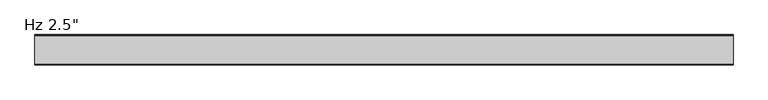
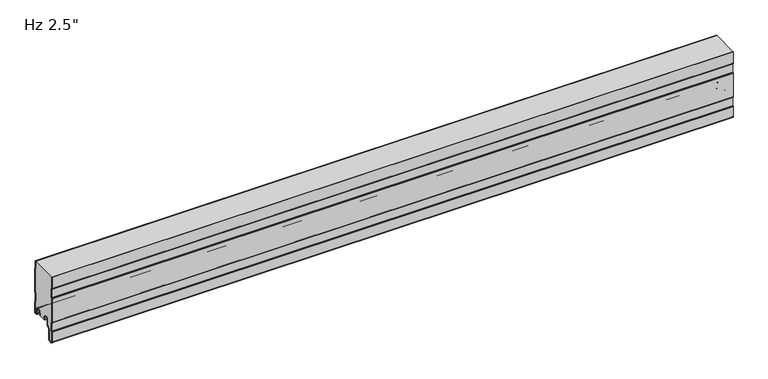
"""IFC4 building model written with IfcOpenShell, lengths in millimetres: plate geometry."""

import ifcopenshell
import ifcopenshell.guid

model = None  # the IFC model being written
_history = None  # IfcOwnerHistory: only IFC2X3 demands one
_inside = {}  # id of a spatial element -> (the spatial element, [elements in it])
_under = {}  # id of a project, library or spatial element -> (it, [spatial elements below it])
_declared = {}  # id of a project -> (the project, [libraries it declares])
_typed = {}  # id of a type object -> (the type object, [elements of that type])
_made_of = {}  # id of a material, layer set ... -> (it, [elements and type objects made of it])


def new_model(schema):
    """Start an empty IFC model of exactly this schema.

    Asked for "IFC4X3", IfcOpenShell would pick the latest addendum, in which some entities
    have other attributes; the version numbers below select the first issue.
    IFC2X3 requires an IfcOwnerHistory on every rooted entity: one is made here for all.
    """
    global model, _history
    if schema == "IFC4X3":
        model = ifcopenshell.file(schema_version=(4, 3, 0, 0))
    else:
        model = ifcopenshell.file(schema=schema)
    _inside.clear()
    _under.clear()
    _declared.clear()
    _typed.clear()
    _made_of.clear()
    _history = None
    if model.schema == "IFC2X3":
        org = make("IfcOrganization", Name="unknown")
        user = make(
            "IfcPersonAndOrganization",
            ThePerson=make("IfcPerson", FamilyName="unknown"),
            TheOrganization=org,
        )
        app = make(
            "IfcApplication",
            ApplicationDeveloper=org,
            Version="unknown",
            ApplicationFullName="unknown",
            ApplicationIdentifier="unknown",
        )
        _history = make(
            "IfcOwnerHistory",
            OwningUser=user,
            OwningApplication=app,
            ChangeAction="ADDED",
            CreationDate=0,
        )
    return model


def make(cls, **values):
    """One entity of the class cls with the attributes given. An attribute that is None is left unset."""
    return model.create_entity(
        cls, **{name: value for name, value in values.items() if value is not None}
    )


def rooted(cls, **values):
    """An entity with a GlobalId (a new one), such as an element, a storey or a relation."""
    return make(cls, GlobalId=ifcopenshell.guid.new(), OwnerHistory=_history, **values)


def si_unit(unit_type, name, prefix=None):
    """IfcSIUnit, for example si_unit("LENGTHUNIT", "METRE", prefix="MILLI")."""
    return make("IfcSIUnit", UnitType=unit_type, Prefix=prefix, Name=name)


def assignment(units):
    """IfcUnitAssignment: the units of a project."""
    return None if units is None else make("IfcUnitAssignment", Units=units)


def point(xyz):
    """IfcCartesianPoint."""
    return None if xyz is None else make("IfcCartesianPoint", Coordinates=xyz)


def direction(xyz):
    """IfcDirection."""
    return None if xyz is None else make("IfcDirection", DirectionRatios=xyz)


def frame(location, z_axis=None, x_axis=None):
    """IfcAxis2Placement3D, a coordinate frame: its origin and axes. An axis left out is left unset."""
    return make(
        "IfcAxis2Placement3D",
        Location=point(location),
        Axis=direction(z_axis),
        RefDirection=direction(x_axis),
    )


def frame_2d(location, x_axis=None):
    """IfcAxis2Placement2D, a coordinate frame in the plane: its origin and x axis."""
    return make(
        "IfcAxis2Placement2D", Location=point(location), RefDirection=direction(x_axis)
    )


def origin():
    """The frame at (0, 0, 0) with its axes left unset."""
    return frame((0.0, 0.0, 0.0))


def place(relative_to, where):
    """IfcLocalPlacement: puts the frame where relative to a parent placement (None: the world)."""
    return make(
        "IfcLocalPlacement", PlacementRelTo=relative_to, RelativePlacement=where
    )


def context(
    kind, dimensions, precision=None, world=None, true_north=None, identifier=None
):
    """IfcGeometricRepresentationContext, for example the 3D "Model" context."""
    return make(
        "IfcGeometricRepresentationContext",
        ContextIdentifier=identifier,
        ContextType=kind,
        CoordinateSpaceDimension=dimensions,
        Precision=precision,
        WorldCoordinateSystem=world,
        TrueNorth=true_north,
    )


def project(units=None, contexts=None):
    """IfcProject with its units and contexts."""
    return rooted(
        "IfcProject",
        Name="project",
        RepresentationContexts=contexts,
        UnitsInContext=assignment(units),
    )


def spatial(cls, under=None, at=None, **own):
    """A site, building, storey or space (cls), placed at a placement, below another one or the project."""
    s = rooted(cls, ObjectPlacement=at, **own)
    if under is not None:
        _under.setdefault(under.id(), (under, []))[1].append(s)
    return s


def polyline(points):
    """IfcPolyline through the points."""
    return make("IfcPolyline", Points=[point(p) for p in points])


def circle_curve(where, radius):
    """IfcCircle in the frame where."""
    return make("IfcCircle", Position=where, Radius=radius)


def trimmed(basis, trim1, trim2, sense, master):
    """IfcTrimmedCurve: the piece of a basis curve between two trims."""
    return make(
        "IfcTrimmedCurve",
        BasisCurve=basis,
        Trim1=trim1,
        Trim2=trim2,
        SenseAgreement=sense,
        MasterRepresentation=master,
    )


def segment(curve, same_sense, transition):
    """IfcCompositeCurveSegment."""
    return make(
        "IfcCompositeCurveSegment",
        Transition=transition,
        SameSense=same_sense,
        ParentCurve=curve,
    )


def composite_curve(segments, self_intersect=None):
    """IfcCompositeCurve: segments joined end to end."""
    return make("IfcCompositeCurve", Segments=segments, SelfIntersect=self_intersect)


def outline(outer, holes=None, kind="AREA"):
    """IfcArbitraryClosedProfileDef: a profile drawn as a closed curve; with holes, ...WithVoids."""
    if holes is None:
        return make("IfcArbitraryClosedProfileDef", ProfileType=kind, OuterCurve=outer)
    return make(
        "IfcArbitraryProfileDefWithVoids",
        ProfileType=kind,
        OuterCurve=outer,
        InnerCurves=holes,
    )


def extrude(swept, where, along, depth):
    """IfcExtrudedAreaSolid: the profile swept, set in the frame where, extruded along a direction by depth."""
    return make(
        "IfcExtrudedAreaSolid",
        SweptArea=swept,
        Position=where,
        ExtrudedDirection=direction(along),
        Depth=depth,
    )


def shape(context_of_items, identifier, shape_type, items):
    """IfcShapeRepresentation: the items that make up one representation, for example the "Body"."""
    return make(
        "IfcShapeRepresentation",
        ContextOfItems=context_of_items,
        RepresentationIdentifier=identifier,
        RepresentationType=shape_type,
        Items=items,
    )


def source(mapping_origin, context_of_items, identifier, shape_type, items):
    """IfcRepresentationMap: a shape defined once, which mapped items show again and again."""
    return make(
        "IfcRepresentationMap",
        MappingOrigin=mapping_origin,
        MappedRepresentation=shape(context_of_items, identifier, shape_type, items),
    )


def transform(
    local_origin,
    x_axis=None,
    y_axis=None,
    z_axis=None,
    scale=None,
    scale2=None,
    scale3=None,
    uniform=True,
):
    """IfcCartesianTransformationOperator3D, or its non-uniform kind. x_axis, y_axis, z_axis: its Axis1, 2, 3."""
    if uniform:
        return make(
            "IfcCartesianTransformationOperator3D",
            Axis1=direction(x_axis),
            Axis2=direction(y_axis),
            LocalOrigin=point(local_origin),
            Scale=scale,
            Axis3=direction(z_axis),
        )
    return make(
        "IfcCartesianTransformationOperator3DnonUniform",
        Axis1=direction(x_axis),
        Axis2=direction(y_axis),
        LocalOrigin=point(local_origin),
        Scale=scale,
        Axis3=direction(z_axis),
        Scale2=scale2,
        Scale3=scale3,
    )


def mapped(mapping_source, mapping_target):
    """IfcMappedItem: shows the shape of a source again, moved by a transform."""
    return make(
        "IfcMappedItem", MappingSource=mapping_source, MappingTarget=mapping_target
    )


def made_of(thing, what):
    """Note that an element or type object is made of a material, layer set ...; save() writes the relation."""
    if what is not None:
        _made_of.setdefault(what.id(), (what, []))[1].append(thing)
    return thing


def element(
    cls,
    number,
    at=None,
    inside=None,
    cuts=None,
    type_object=None,
    material=None,
    context=None,
    identifier="Body",
    shape_type=None,
    held_by="IfcProductDefinitionShape",
    body=None,
    shapes=None,
    **own,
):
    """One element of the class cls, such as IfcWall. Its Tag is "e" and its number.

    at: its placement. inside: the storey or other place that contains it. cuts: it is an
    opening in that element (IfcRelVoidsElement). A single representation is given by context,
    identifier, shape_type and body (its items); several are given by shapes. held_by: the class
    of the entity that holds the representations. save() writes the other relations.
    """
    e = rooted(cls, Tag="e%d" % number, ObjectPlacement=at, **own)
    if body is not None:
        shapes = [shape(context, identifier, shape_type, body)]
    if shapes is not None:
        e.Representation = make(held_by, Representations=shapes)
    if inside is not None:
        _inside.setdefault(inside.id(), (inside, []))[1].append(e)
    if cuts is not None:
        rooted(
            "IfcRelVoidsElement", RelatingBuildingElement=cuts, RelatedOpeningElement=e
        )
    if type_object is not None:
        _typed.setdefault(type_object.id(), (type_object, []))[1].append(e)
    return made_of(e, material)


def aggregate(whole, parts):
    """IfcRelAggregates: a whole, such as a stair, and the parts it consists of."""
    return rooted("IfcRelAggregates", RelatingObject=whole, RelatedObjects=parts)


def save(model, path):
    """Write the relations noted so far, then the file.

    IfcRelAggregates (storeys below a building ...), IfcRelContainedInSpatialStructure (elements
    in a storey), IfcRelDefinesByType, IfcRelAssociatesMaterial and IfcRelDeclares: one each for
    every whole, place, type object, material and project.
    """
    for whole, parts in _under.values():
        aggregate(whole, parts)
    for where, things in _inside.values():
        rooted(
            "IfcRelContainedInSpatialStructure",
            RelatedElements=things,
            RelatingStructure=where,
        )
    for kind, things in _typed.values():
        rooted("IfcRelDefinesByType", RelatedObjects=things, RelatingType=kind)
    for what, things in _made_of.values():
        rooted("IfcRelAssociatesMaterial", RelatedObjects=things, RelatingMaterial=what)
    for by, libraries in _declared.values():
        rooted("IfcRelDeclares", RelatingContext=by, RelatedDefinitions=libraries)
    model.write(path)


def plane_surface(at):
    """IfcPlane: the flat surface through the origin of the frame at, square to its z axis."""
    return make("IfcPlane", Position=at)


def cylinder_surface(at, radius):
    """IfcCylindricalSurface: all points at the distance radius from the z axis of the frame at."""
    return make("IfcCylindricalSurface", Position=at, Radius=radius)


def revolved_surface(curve, axis_point, axis_direction):
    """IfcSurfaceOfRevolution: the curve turned about the line through axis_point along axis_direction."""
    return make(
        "IfcSurfaceOfRevolution",
        SweptCurve=make("IfcArbitraryOpenProfileDef", ProfileType="CURVE", Curve=curve),
        AxisPosition=make("IfcAxis1Placement", Location=point(axis_point), Axis=direction(axis_direction)),
    )


def advanced_brep(points, edges, surfaces, faces):
    """IfcAdvancedBrep: a solid bounded by faces that lie on surfaces and meet in shared edges.

    An edge is (start, end): straight between two places in points (the first is 0);
    or (start, end, curve); or (start, end, curve, False) where it runs against its curve.
    A face is (place in surfaces, loops), or (place, loops, False) where it looks against
    its surface's normal. A loop lists edges by number (the first is 1), with a minus sign
    where the edge is run from its end to its start. The first loop is the outer one.
    """
    corners = [point(p) for p in points]
    vertices = [make("IfcVertexPoint", VertexGeometry=c) for c in corners]
    made = []
    for start, end, *more in edges:
        made.append(
            make(
                "IfcEdgeCurve",
                EdgeStart=vertices[start],
                EdgeEnd=vertices[end],
                EdgeGeometry=more[0] if more else make("IfcPolyline", Points=[corners[start], corners[end]]),
                SameSense=more[1] if len(more) > 1 else True,
            )
        )
    hull = []
    for where, loops, *sense in faces:
        bounds = []
        for j, loop in enumerate(loops):
            ring = [make("IfcOrientedEdge", EdgeElement=made[abs(k) - 1], Orientation=k > 0) for k in loop]
            bounds.append(
                make(
                    "IfcFaceOuterBound" if j == 0 else "IfcFaceBound",
                    Bound=make("IfcEdgeLoop", EdgeList=ring),
                    Orientation=True,
                )
            )
        hull.append(make("IfcAdvancedFace", Bounds=bounds, FaceSurface=surfaces[where], SameSense=sense[0] if sense else True))
    return make("IfcAdvancedBrep", Outer=make("IfcClosedShell", CfsFaces=hull))


def plate_77654dfe(model_context):
    return source(origin(), model_context, "Body", "SolidModel", [
        advanced_brep(
        [(-730.0, -17.0015159, 2.0313088), (-730.0, -18.0015191, 1.0313116), (-730.0, -19.0015105, 2.0313088), (-730.0, -19.0015105, 6.0315125), (-730.0, -18.0015159, 6.0315125), (-730.0, -18.0015159, 8.7237223), (-730.0, -14.7015202, 12.023718), (-730.0, -10.301529, 12.023718), (-730.0, -7.0015335, 8.7237225), (-730.0, -7.0015335, -1.6962564), (-730.0, -5.2315393, -3.4662506), (-730.0, -0.9999916, -3.4662506), (-730.0, -0.9999916, 21.034026), (-730.0, -2.2002307, 22.4196686), (-730.0, -2.2002307, 41.7948349), (-730.0, -1.0, 43.1804679), (-730.0, -1.0, 97.2338833), (-730.0, -2.2002307, 98.6195162), (-730.0, -2.2002307, 114.0), (-730.0, -1.2002307, 114.0), (-730.0, -1.2002307, 98.9923967), (-730.0, -0.3417885, 98.001349), (-730.0, 0.0, 97.0847321), (-730.0, 0.0, 43.329619), (-730.0, -0.3417885, 42.4130021), (-730.0, -1.2002307, 41.4219545), (-730.0, -1.2002307, 22.7925491), (-730.0, -0.3417885, 21.8015014), (-730.0, 0.0, 20.8847931), (-730.0, 8.4e-06, -3.0662545), (-730.0, -1.3999878, -4.4662506), (-730.0, -5.2315393, -4.4662506), (-730.0, -8.0015335, -1.6962564), (-730.0, -8.0015335, 8.7237225), (-730.0, -10.301529, 11.023718), (-730.0, -14.7015202, 11.023718), (-730.0, -17.0015159, 8.7237223), (730.0, -17.0015159, 2.0313088), (730.0, -17.0015159, 8.7237223), (730.0, -14.7015202, 11.023718), (730.0, -10.301529, 11.023718), (730.0, -8.0015335, 8.7237225), (730.0, -8.0015335, -1.6962564), (730.0, -5.2315393, -4.4662506), (730.0, -1.3999878, -4.4662506), (730.0, 8.4e-06, -3.0662545), (730.0, 8.4e-06, 20.8848845), (730.0, -0.3417885, 21.8015014), (730.0, -1.2002307, 22.7925491), (730.0, -1.2002307, 41.4219545), (730.0, -0.3417885, 42.4130021), (730.0, 0.0, 43.329619), (730.0, 0.0, 97.0847321), (730.0, -0.3417885, 98.001349), (730.0, -1.2002307, 98.9923967), (730.0, -1.2002307, 114.0), (730.0, -2.2002307, 114.0), (730.0, -2.2002307, 98.6195162), (730.0, -1.0, 97.2338833), (730.0, -1.0, 43.1804679), (730.0, -2.2002307, 41.7948349), (730.0, -2.2002307, 22.4196686), (730.0, -0.9999916, 21.034026), (730.0, -0.9999916, -3.4662506), (730.0, -5.2315393, -3.4662506), (730.0, -7.0015335, -1.6962564), (730.0, -7.0015335, 8.7237225), (730.0, -10.301529, 12.023718), (730.0, -14.7015202, 12.023718), (730.0, -18.0015159, 8.7237223), (730.0, -18.0015159, 6.0315125), (730.0, -19.0015105, 6.0315125), (730.0, -19.0015105, 2.0313088), (730.0, -18.0015192, 1.0313116)],
        [
            (0, 1, circle_curve(frame((-730.0, -18.0015132, 2.0313088), z_axis=(-1.0, 0.0, 0.0), x_axis=(0.0, 0.0, 1.0)), 0.9999973)),
            (1, 2, circle_curve(frame((-730.0, -18.0015133, 2.0313088), z_axis=(-1.0, 0.0, 0.0), x_axis=(0.0, 0.0, 1.0)), 0.9999972)),
            (2, 3),
            (3, 4),
            (4, 5),
            (5, 6, circle_curve(frame((-730.0, -14.7015202, 8.7237223), z_axis=(-1.0, 0.0, 0.0), x_axis=(0.0, 0.0, 1.0)), 3.2999957)),
            (6, 7),
            (7, 8, circle_curve(frame((-730.0, -10.301529, 8.7237225), z_axis=(-1.0, 0.0, 0.0), x_axis=(0.0, 0.0, 1.0)), 3.2999955)),
            (8, 9),
            (9, 10, circle_curve(frame((-730.0, -5.2315393, -1.6962564), z_axis=(1.0, 0.0, 0.0), x_axis=(0.0, 0.0, 1.0)), 1.7699942)),
            (10, 11),
            (11, 12),
            (12, 13),
            (13, 14),
            (14, 15),
            (15, 16),
            (16, 17),
            (17, 18),
            (18, 19),
            (19, 20),
            (20, 21),
            (21, 22, circle_curve(frame((-730.0, -1.3999972, 97.0847321), z_axis=(-1.0, 0.0, 0.0), x_axis=(0.0, 0.0, 1.0)), 1.3999972)),
            (22, 23),
            (23, 24, circle_curve(frame((-730.0, -1.3999972, 43.329619), z_axis=(-1.0, 0.0, 0.0), x_axis=(0.0, 0.0, 1.0)), 1.3999972)),
            (24, 25),
            (25, 26),
            (26, 27),
            (27, 28, circle_curve(frame((-730.0, -1.3999972, 20.8848845), z_axis=(-1.0, 0.0, 0.0), x_axis=(0.0, 0.0, 1.0)), 1.3999972)),
            (28, 29),
            (29, 30, circle_curve(frame((-730.0, -1.3999878, -3.0662545), z_axis=(-1.0, 0.0, 0.0), x_axis=(0.0, 0.0, 1.0)), 1.3999962)),
            (30, 31),
            (31, 32, circle_curve(frame((-730.0, -5.2315393, -1.6962564), z_axis=(-1.0, 0.0, 0.0), x_axis=(0.0, 0.0, 1.0)), 2.7699942)),
            (32, 33),
            (33, 34, circle_curve(frame((-730.0, -10.301529, 8.7237225), z_axis=(1.0, 0.0, 0.0), x_axis=(0.0, 0.0, 1.0)), 2.2999955)),
            (34, 35),
            (35, 36, circle_curve(frame((-730.0, -14.7015202, 8.7237223), z_axis=(1.0, 0.0, 0.0), x_axis=(0.0, 0.0, 1.0)), 2.2999957)),
            (36, 0),
            (37, 38),
            (38, 39, circle_curve(frame((730.0, -14.7015202, 8.7237223), z_axis=(-1.0, 0.0, 0.0), x_axis=(0.0, 0.0, 1.0)), 2.2999957)),
            (39, 40),
            (40, 41, circle_curve(frame((730.0, -10.301529, 8.7237225), z_axis=(-1.0, 0.0, 0.0), x_axis=(0.0, 0.0, 1.0)), 2.2999955)),
            (41, 42),
            (42, 43, circle_curve(frame((730.0, -5.2315393, -1.6962564), z_axis=(1.0, 0.0, 0.0), x_axis=(0.0, 0.0, 1.0)), 2.7699942)),
            (43, 44),
            (44, 45, circle_curve(frame((730.0, -1.3999878, -3.0662545), z_axis=(1.0, 0.0, 0.0), x_axis=(0.0, 0.0, 1.0)), 1.3999962)),
            (45, 46),
            (46, 47, circle_curve(frame((730.0, -1.3999972, 20.8848845), z_axis=(1.0, 0.0, 0.0), x_axis=(0.0, 0.0, 1.0)), 1.3999972)),
            (47, 48),
            (48, 49),
            (49, 50),
            (50, 51, circle_curve(frame((730.0, -1.3999972, 43.329619), z_axis=(1.0, 0.0, 0.0), x_axis=(0.0, 0.0, 1.0)), 1.3999972)),
            (51, 52),
            (52, 53, circle_curve(frame((730.0, -1.3999972, 97.0847321), z_axis=(1.0, 0.0, 0.0), x_axis=(0.0, 0.0, 1.0)), 1.3999972)),
            (53, 54),
            (54, 55),
            (55, 56),
            (56, 57),
            (57, 58),
            (58, 59),
            (59, 60),
            (60, 61),
            (61, 62),
            (62, 63),
            (63, 64),
            (64, 65, circle_curve(frame((730.0, -5.2315393, -1.6962564), z_axis=(-1.0, 0.0, 0.0), x_axis=(0.0, 0.0, 1.0)), 1.7699942)),
            (65, 66),
            (66, 67, circle_curve(frame((730.0, -10.301529, 8.7237225), z_axis=(1.0, 0.0, 0.0), x_axis=(0.0, 0.0, 1.0)), 3.2999955)),
            (67, 68),
            (68, 69, circle_curve(frame((730.0, -14.7015202, 8.7237223), z_axis=(1.0, 0.0, 0.0), x_axis=(0.0, 0.0, 1.0)), 3.2999957)),
            (69, 70),
            (70, 71),
            (71, 72),
            (72, 73, circle_curve(frame((730.0, -18.0015133, 2.0313088), z_axis=(1.0, 0.0, 0.0), x_axis=(0.0, 0.0, 1.0)), 0.9999972)),
            (73, 37, circle_curve(frame((730.0, -18.0015132, 2.0313088), z_axis=(1.0, 0.0, 0.0), x_axis=(0.0, 0.0, 1.0)), 0.9999973)),
            (18, 56),
            (55, 19),
            (36, 38),
            (37, 0),
            (35, 39),
            (34, 40),
            (33, 41),
            (32, 42),
            (31, 43),
            (30, 44),
            (29, 45),
            (28, 46),
            (27, 47),
            (26, 48),
            (25, 49),
            (24, 50),
            (23, 51),
            (22, 52),
            (21, 53),
            (20, 54),
            (17, 57),
            (16, 58),
            (15, 59),
            (14, 60),
            (13, 61),
            (12, 62),
            (11, 63),
            (10, 64),
            (9, 65),
            (8, 66),
            (7, 67),
            (6, 68),
            (5, 69),
            (4, 70),
            (3, 71),
            (2, 72),
            (1, 73),
        ],
        [
            plane_surface(frame((-730.0, 0.0, 381.0), z_axis=(-1.0, 0.0, 0.0), x_axis=(0.0, 1.0, 0.0))),
            plane_surface(frame((730.0, 0.0, 381.0), z_axis=(1.0, 0.0, 0.0), x_axis=(0.0, 1.0, 0.0))),
            plane_surface(frame((730.0, 10.0, 114.0), z_axis=(0.0, 0.0, 1.0), x_axis=(-1.0, 0.0, 0.0))),
            plane_surface(frame((-730.0, -17.0015159, 2.0313088), z_axis=(0.0, 1.0, 0.0), x_axis=(1.0, 0.0, 0.0))),
            revolved_surface(polyline([(730.0, -14.7015202, 11.023718), (-730.0, -14.7015202, 11.023718)]), (-730.0, -14.7015202, 8.7237223), (1.0, 0.0, 0.0)),
            plane_surface(frame((-730.0, -14.7015202, 11.023718), z_axis=(0.0, 0.0, -1.0), x_axis=(1.0, 0.0, 0.0))),
            revolved_surface(polyline([(730.0, -10.301529, 11.023717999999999), (-730.0, -10.301529, 11.023717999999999)]), (-730.0, -10.301529, 8.7237225), (1.0, 0.0, 0.0)),
            plane_surface(frame((-730.0, -8.0015335, 8.7237225), z_axis=(0.0, -1.0, 0.0), x_axis=(1.0, 0.0, 0.0))),
            cylinder_surface(frame((-730.0, -5.2315393, -1.6962564), z_axis=(-1.0, 0.0, 0.0), x_axis=(0.0, 0.0, 1.0)), 2.7699942),
            plane_surface(frame((-730.0, -5.2315393, -4.4662506), z_axis=(0.0, 0.0, -1.0), x_axis=(1.0, 0.0, 0.0))),
            cylinder_surface(frame((-730.0, -1.3999878, -3.0662545), z_axis=(-1.0, 0.0, 0.0), x_axis=(0.0, 0.0, 1.0)), 1.3999962),
            plane_surface(frame((-730.0, 8.4e-06, -3.0662545), z_axis=(0.0, 1.0, 0.0), x_axis=(1.0, 0.0, 0.0))),
            cylinder_surface(frame((-730.0, -1.3999972, 20.8848845), z_axis=(-1.0, 0.0, 0.0), x_axis=(0.0, 0.0, 1.0)), 1.3999972),
            plane_surface(frame((-730.0, -0.3417885, 21.8015014), z_axis=(0.0, 0.755864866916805, 0.6547276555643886), x_axis=(1.0, 0.0, 0.0))),
            plane_surface(frame((-730.0, -1.2002307, 32.1072518), z_axis=(0.0, 1.0, 0.0), x_axis=(1.0, 0.0, 0.0))),
            plane_surface(frame((-730.0, -1.2002307, 41.4219545), z_axis=(0.0, 0.755864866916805, -0.6547276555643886), x_axis=(1.0, 0.0, 0.0))),
            cylinder_surface(frame((-730.0, -1.3999972, 43.329619), z_axis=(-1.0, 0.0, 0.0), x_axis=(0.0, 0.0, 1.0)), 1.3999972),
            plane_surface(frame((-730.0, 0.0, 43.329619), z_axis=(0.0, 1.0, 0.0), x_axis=(1.0, 0.0, 0.0))),
            cylinder_surface(frame((-730.0, -1.3999972, 97.0847321), z_axis=(-1.0, 0.0, 0.0), x_axis=(0.0, 0.0, 1.0)), 1.3999972),
            plane_surface(frame((-730.0, -0.3417885, 98.001349), z_axis=(0.0, 0.755864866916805, 0.6547276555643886), x_axis=(1.0, 0.0, 0.0))),
            plane_surface(frame((-730.0, -1.2002307, 108.3070994), z_axis=(0.0, 1.0, 0.0), x_axis=(1.0, 0.0, 0.0))),
            plane_surface(frame((-730.0, -2.2002307, 117.9946825), z_axis=(0.0, -1.0, 0.0), x_axis=(1.0, 0.0, 0.0))),
            plane_surface(frame((-730.0, -2.2002307, 98.6195162), z_axis=(0.0, -0.755864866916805, -0.6547276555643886), x_axis=(1.0, 0.0, 0.0))),
            plane_surface(frame((-730.0, -1.0, 97.2338833), z_axis=(0.0, -1.0, 0.0), x_axis=(1.0, 0.0, 0.0))),
            plane_surface(frame((-730.0, -1.0, 43.1804679), z_axis=(0.0, -0.755864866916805, 0.6547276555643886), x_axis=(1.0, 0.0, 0.0))),
            plane_surface(frame((-730.0, -2.2002307, 41.7948349), z_axis=(0.0, -1.0, 0.0), x_axis=(1.0, 0.0, 0.0))),
            plane_surface(frame((-730.0, -2.2002307, 22.4196686), z_axis=(0.0, -0.755864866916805, -0.6547276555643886), x_axis=(1.0, 0.0, 0.0))),
            plane_surface(frame((-730.0, -0.9999916, 21.034026), z_axis=(0.0, -1.0, 0.0), x_axis=(1.0, 0.0, 0.0))),
            plane_surface(frame((-730.0, -0.9999916, -3.4662506), z_axis=(0.0, 0.0, 1.0), x_axis=(1.0, 0.0, 0.0))),
            revolved_surface(polyline([(730.0, -5.2315393, 0.07373779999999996), (-730.0, -5.2315393, 0.07373779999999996)]), (-730.0, -5.2315393, -1.6962564), (1.0, 0.0, 0.0)),
            plane_surface(frame((-730.0, -7.0015335, -1.6962564), z_axis=(0.0, 1.0, 0.0), x_axis=(1.0, 0.0, 0.0))),
            cylinder_surface(frame((-730.0, -10.301529, 8.7237225), z_axis=(-1.0, 0.0, 0.0), x_axis=(0.0, 0.0, 1.0)), 3.2999955),
            plane_surface(frame((-730.0, -10.301529, 12.023718), z_axis=(0.0, 0.0, 1.0), x_axis=(1.0, 0.0, 0.0))),
            cylinder_surface(frame((-730.0, -14.7015202, 8.7237223), z_axis=(-1.0, 0.0, 0.0), x_axis=(0.0, 0.0, 1.0)), 3.2999957),
            plane_surface(frame((-730.0, -18.0015159, 8.7237223), z_axis=(0.0, -1.0, 0.0), x_axis=(1.0, 0.0, 0.0))),
            plane_surface(frame((-730.0, -18.0015159, 6.0315125), z_axis=(0.0, 0.0, 1.0), x_axis=(1.0, 0.0, 0.0))),
            plane_surface(frame((-730.0, -19.0015105, 6.0315125), z_axis=(0.0, -1.0, 0.0), x_axis=(1.0, 0.0, 0.0))),
            cylinder_surface(frame((-730.0, -18.0015133, 2.0313088), z_axis=(-1.0, 0.0, 0.0), x_axis=(0.0, 0.0, 1.0)), 0.9999972),
            cylinder_surface(frame((-730.0, -18.0015132, 2.0313088), z_axis=(-1.0, 0.0, 0.0), x_axis=(0.0, 0.0, 1.0)), 0.9999973),
        ],
        [
            (0, [[1, 2, 3, 4, 5, 6, 7, 8, 9, 10, 11, 12, 13, 14, 15, 16, 17, 18, 19, 20, 21, 22, 23, 24, 25, 26, 27, 28, 29, 30, 31, 32, 33, 34, 35, 36, 37]]),
            (1, [[38, 39, 40, 41, 42, 43, 44, 45, 46, 47, 48, 49, 50, 51, 52, 53, 54, 55, 56, 57, 58, 59, 60, 61, 62, 63, 64, 65, 66, 67, 68, 69, 70, 71, 72, 73, 74]]),
            (2, [[75, -56, 76, -19]]),
            (3, [[77, -38, 78, -37]]),
            (4, [[79, -39, -77, -36]]),
            (5, [[80, -40, -79, -35]]),
            (6, [[81, -41, -80, -34]]),
            (7, [[82, -42, -81, -33]]),
            (8, [[83, -43, -82, -32]]),
            (9, [[84, -44, -83, -31]]),
            (10, [[85, -45, -84, -30]]),
            (11, [[86, -46, -85, -29]]),
            (12, [[87, -47, -86, -28]]),
            (13, [[88, -48, -87, -27]]),
            (14, [[89, -49, -88, -26]]),
            (15, [[90, -50, -89, -25]]),
            (16, [[91, -51, -90, -24]]),
            (17, [[92, -52, -91, -23]]),
            (18, [[93, -53, -92, -22]]),
            (19, [[94, -54, -93, -21]]),
            (20, [[-20, -76, -55, -94]]),
            (21, [[-57, -75, -18, 95]]),
            (22, [[96, -58, -95, -17]]),
            (23, [[97, -59, -96, -16]]),
            (24, [[98, -60, -97, -15]]),
            (25, [[99, -61, -98, -14]]),
            (26, [[100, -62, -99, -13]]),
            (27, [[101, -63, -100, -12]]),
            (28, [[102, -64, -101, -11]]),
            (29, [[103, -65, -102, -10]]),
            (30, [[104, -66, -103, -9]]),
            (31, [[105, -67, -104, -8]]),
            (32, [[106, -68, -105, -7]]),
            (33, [[107, -69, -106, -6]]),
            (34, [[108, -70, -107, -5]]),
            (35, [[109, -71, -108, -4]]),
            (36, [[110, -72, -109, -3]]),
            (37, [[111, -73, -110, -2]]),
            (38, [[-78, -74, -111, -1]]),
        ],
    ),
        extrude(outline(composite_curve([segment(trimmed(circle_curve(frame_2d((-62.0998717, -10.6415934)), 1.3998661), [point((-63.4997378, -10.6415934))], [point((-63.0324955, -9.5976403))], False, "CARTESIAN"), True, "CONTINUOUS"), segment(polyline([(-63.0324955, -9.5976403), (-62.2997693, -8.8649141), (-62.2997693, 10.0260713), (-63.0327349, 10.7590369)]), True, "CONTINUOUS"), segment(trimmed(circle_curve(frame_2d((-62.1000237, 11.8030877)), 1.3999972), [point((-63.0327349, 10.7590369))], [point((-63.5, 11.810741))], False, "CARTESIAN"), True, "CONTINUOUS"), segment(polyline([(-63.5, 11.810741), (-63.5, 65.5582542)]), True, "CONTINUOUS"), segment(trimmed(circle_curve(frame_2d((-62.1000028, 65.5582542)), 1.3999972), [point((-63.5, 65.5582542))], [point((-63.032714, 66.602305))], False, "CARTESIAN"), True, "CONTINUOUS"), segment(polyline([(-63.032714, 66.602305), (-62.2997693, 67.3352497), (-62.2997693, 86.2259189), (-63.0327349, 86.9588845)]), True, "CONTINUOUS"), segment(trimmed(circle_curve(frame_2d((-62.1000237, 88.0029353)), 1.3999972), [point((-63.0327349, 86.9588845))], [point((-63.5, 88.0105886))], False, "CARTESIAN"), True, "CONTINUOUS"), segment(polyline([(-63.5, 88.0105886), (-63.5, 114.0), (-62.5, 114.0), (-62.5, 87.8405213), (-61.2997693, 86.6402905), (-61.2997693, 66.920878), (-62.5, 65.7206473), (-62.5, 11.6405156), (-61.2997693, 10.4402849), (-61.2997693, -9.2791277), (-62.4997378, -10.4790962), (-62.4997378, -32.4521176)]), True, "CONTINUOUS"), segment(trimmed(circle_curve(frame_2d((-59.9294985, -32.4521176)), 2.5702393), [point((-62.4997378, -32.4521176))], [point((-59.7054129, -35.0125699))], True, "CARTESIAN"), True, "CONTINUOUS"), segment(polyline([(-59.7054129, -35.0125699), (-54.723592, -34.5765709)]), True, "CONTINUOUS"), segment(trimmed(circle_curve(frame_2d((-55.2049826, -31.9198392)), 2.6999926), [point((-54.723592, -34.5765709))], [point((-52.50499, -31.9198392))], True, "CARTESIAN"), True, "CONTINUOUS"), segment(polyline([(-52.50499, -31.9198392), (-52.50499, -9.8247096), (-47.0029189, -4.3226385)]), True, "CONTINUOUS"), segment(trimmed(circle_curve(frame_2d((-48.2049966, -3.1205608)), 1.6999946), [point((-47.0029189, -4.3226385))], [point((-46.505002, -3.1205608))], True, "CARTESIAN"), True, "CONTINUOUS"), segment(polyline([(-46.505002, -3.1205608), (-46.505002, 8.6903283)]), True, "CONTINUOUS"), segment(trimmed(circle_curve(frame_2d((-43.1550067, 8.6903283)), 3.3499953), [point((-46.505002, 8.6903283))], [point((-43.1550067, 12.0403236))], False, "CARTESIAN"), True, "CONTINUOUS"), segment(polyline([(-43.1550067, 12.0403236), (-38.7550155, 12.0403236)]), True, "CONTINUOUS"), segment(trimmed(circle_curve(frame_2d((-38.7550155, 8.6903283)), 3.3499953), [point((-38.7550155, 12.0403236))], [point((-35.4050202, 8.6903283))], False, "CARTESIAN"), True, "CONTINUOUS"), segment(polyline([(-35.4050202, 8.6903283), (-35.4050202, 5.9912173), (-34.0065413, 5.9912173), (-34.0065413, 2.2328239)]), True, "CONTINUOUS"), segment(trimmed(circle_curve(frame_2d((-35.206538, 2.2313092)), 1.1999976), [point((-34.0065413, 2.2328239))], [point((-35.1760161, 1.0316999))], False, "CARTESIAN"), True, "CONTINUOUS"), segment(trimmed(circle_curve(frame_2d((-35.206538, 2.2313092)), 1.1999976), [point((-35.1760161, 1.0316999))], [point((-36.4050202, 2.1710221))], False, "CARTESIAN"), True, "CONTINUOUS"), segment(polyline([(-36.4050202, 2.1710221), (-36.4050202, 8.6903283)]), True, "CONTINUOUS"), segment(trimmed(circle_curve(frame_2d((-38.7550155, 8.6903283)), 2.3499953), [point((-36.4050202, 8.6903283))], [point((-38.7550155, 11.0403236))], True, "CARTESIAN"), True, "CONTINUOUS"), segment(polyline([(-38.7550155, 11.0403236), (-43.1550067, 11.0403236)]), True, "CONTINUOUS"), segment(trimmed(circle_curve(frame_2d((-43.1550067, 8.6903283)), 2.3499953), [point((-43.1550067, 11.0403236))], [point((-45.505002, 8.6903283))], True, "CARTESIAN"), True, "CONTINUOUS"), segment(polyline([(-45.505002, 8.6903283), (-45.505002, -3.1205608)]), True, "CONTINUOUS"), segment(trimmed(circle_curve(frame_2d((-48.2049966, -3.1205608)), 2.6999946), [point((-45.505002, -3.1205608))], [point((-46.2958121, -5.0297453))], False, "CARTESIAN"), True, "CONTINUOUS"), segment(polyline([(-46.2958121, -5.0297453), (-51.1242296, -9.8581627)]), True, "CONTINUOUS"), segment(trimmed(circle_curve(frame_2d((-50.2049926, -10.7773997)), 1.2999974), [point((-51.1242296, -9.8581627))], [point((-51.50499, -10.7773997))], True, "CARTESIAN"), True, "CONTINUOUS"), segment(polyline([(-51.50499, -10.7773997), (-51.50499, -31.9198392)]), True, "CONTINUOUS"), segment(trimmed(circle_curve(frame_2d((-55.2049826, -31.9198392)), 3.6999926), [point((-51.50499, -31.9198392))], [point((-54.5941815, -35.5690675))], False, "CARTESIAN"), True, "CONTINUOUS"), segment(polyline([(-54.5941815, -35.5690675), (-59.6182281, -36.008762)]), True, "CONTINUOUS"), segment(trimmed(circle_curve(frame_2d((-59.9294985, -32.4521176)), 3.5702393), [point((-59.6182281, -36.008762))], [point((-63.4997378, -32.4521176))], False, "CARTESIAN"), True, "CONTINUOUS"), segment(polyline([(-63.4997378, -32.4521176), (-63.4997378, -10.6415934)]), True, "CONTINUOUS")], self_intersect=False)), frame((-730.0, 0.0, 0.0), z_axis=(1.0, 0.0, 0.0), x_axis=(0.0, 1.0, 0.0)), (0.0, 0.0, 1.0), 1460.0),
        extrude(outline(composite_curve([segment(trimmed(circle_curve(frame_2d((-35.206538, 2.2313092)), 1.1999976), [point((-35.1760161, 1.0316999))], [point((-34.0065413, 2.2328239))], True, "CARTESIAN"), True, "CONTINUOUS"), segment(polyline([(-34.0065413, 2.2328239), (-34.0065413, 5.9912173), (-35.4050202, 5.9912173), (-35.4050202, 8.6903283)]), True, "CONTINUOUS"), segment(trimmed(circle_curve(frame_2d((-38.7550155, 8.6903283)), 3.3499953), [point((-35.4050202, 8.6903283))], [point((-38.7550155, 12.0403236))], True, "CARTESIAN"), True, "CONTINUOUS"), segment(polyline([(-38.7550155, 12.0403236), (-43.1550067, 12.0403236)]), True, "CONTINUOUS"), segment(trimmed(circle_curve(frame_2d((-43.1550067, 8.6903283)), 3.3499953), [point((-43.1550067, 12.0403236))], [point((-46.505002, 8.6903283))], True, "CARTESIAN"), True, "CONTINUOUS"), segment(polyline([(-46.505002, 8.6903283), (-46.505002, -3.1205608)]), True, "CONTINUOUS"), segment(trimmed(circle_curve(frame_2d((-48.2049966, -3.1205608)), 1.6999946), [point((-46.505002, -3.1205608))], [point((-47.0029189, -4.3226385))], False, "CARTESIAN"), True, "CONTINUOUS"), segment(polyline([(-47.0029189, -4.3226385), (-52.50499, -9.8247096), (-52.50499, -31.9198392)]), True, "CONTINUOUS"), segment(trimmed(circle_curve(frame_2d((-55.2049826, -31.9198392)), 2.6999926), [point((-52.50499, -31.9198392))], [point((-54.723592, -34.5765709))], False, "CARTESIAN"), True, "CONTINUOUS"), segment(polyline([(-54.723592, -34.5765709), (-59.7054129, -35.0125699)]), True, "CONTINUOUS"), segment(trimmed(circle_curve(frame_2d((-59.9294985, -32.4521176)), 2.5702393), [point((-59.7054129, -35.0125699))], [point((-62.4997378, -32.4521176))], False, "CARTESIAN"), True, "CONTINUOUS"), segment(polyline([(-62.4997378, -32.4521176), (-62.4997378, -10.4790962), (-61.2997693, -9.2791277), (-61.2997693, 10.4402849), (-62.5, 11.6405156), (-62.5, 65.7206473), (-61.2997693, 66.920878), (-61.2997693, 86.6402905), (-62.5, 87.8405213), (-62.5, 114.0), (-2.2002307, 114.0), (-2.2002307, 98.6195163), (-1.0, 97.2338833), (-1.0, 43.1804679), (-2.2002307, 41.794835), (-2.2002307, 22.4196687), (-0.9999916, 21.034026), (-0.9999916, -3.4662506), (-5.2315389, -3.4662506)]), True, "CONTINUOUS"), segment(trimmed(circle_curve(frame_2d((-5.2315389, -1.6962564)), 1.7699942), [point((-5.2315389, -3.4662506))], [point((-7.0015331, -1.6962564))], False, "CARTESIAN"), True, "CONTINUOUS"), segment(polyline([(-7.0015331, -1.6962564), (-7.0015331, 8.7237222)]), True, "CONTINUOUS"), segment(trimmed(circle_curve(frame_2d((-10.301529, 8.7237222)), 3.2999959), [point((-7.0015331, 8.7237222))], [point((-10.301529, 12.023718))], True, "CARTESIAN"), True, "CONTINUOUS"), segment(polyline([(-10.301529, 12.023718), (-14.7015202, 12.023718)]), True, "CONTINUOUS"), segment(trimmed(circle_curve(frame_2d((-14.7015202, 8.7237223)), 3.2999957), [point((-14.7015202, 12.023718))], [point((-18.0015159, 8.7237223))], True, "CARTESIAN"), True, "CONTINUOUS"), segment(polyline([(-18.0015159, 8.7237223), (-18.0015159, 6.0315125), (-19.0015105, 6.0315125), (-19.0015105, 2.0313089)]), True, "CONTINUOUS"), segment(trimmed(circle_curve(frame_2d((-18.0015133, 2.0313089)), 0.9999972), [point((-19.0015105, 2.0313089))], [point((-18.0015192, 1.0313117))], True, "CARTESIAN"), True, "CONTINUOUS"), segment(polyline([(-18.0015192, 1.0313117), (-19.0328308, 0.0), (-34.1443162, 0.0), (-35.1760161, 1.0316999)]), True, "CONTINUOUS")], self_intersect=False)), frame((-730.0, 0.0, 0.0), z_axis=(1.0, 0.0, 0.0), x_axis=(0.0, 1.0, 0.0)), (0.0, 0.0, 1.0), 1460.0),
    ])


if __name__ == "__main__":
    model = new_model("IFC4")
    model_context = context("Model", 3, world=origin())
    ifc_project = project(units=[si_unit("LENGTHUNIT", "METRE", prefix="MILLI")], contexts=[model_context])
    site = spatial("IfcSite", under=ifc_project)
    building = spatial("IfcBuilding", under=site)
    placement = place(None, origin())
    plate_shape = plate_77654dfe(model_context)
    element("IfcPlate", 1, ObjectType="KIP-30-Karrier-KP-R19-CP-Hz-SL_SL : Hz 2.5\"", at=placement, inside=building, context=model_context, shape_type="MappedRepresentation", body=[
        mapped(plate_shape, transform((0.0, 0.0, 0.0), x_axis=(1.0, 0.0, 0.0), y_axis=(0.0, 1.0, 0.0), z_axis=(0.0, 0.0, 1.0))),
    ])
    save(model, "model.ifc")
